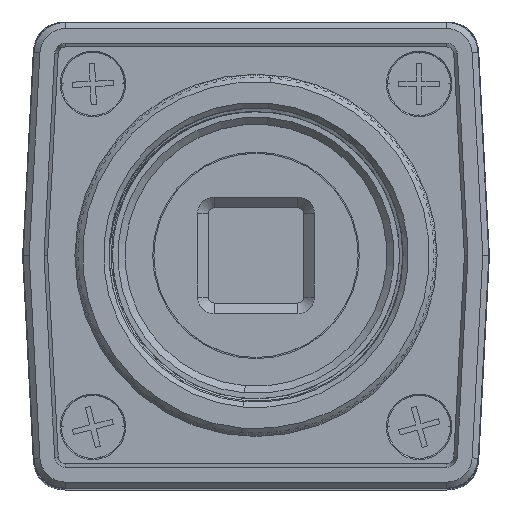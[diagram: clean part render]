
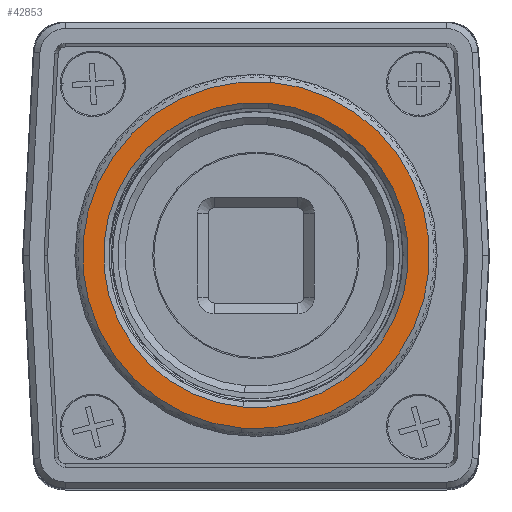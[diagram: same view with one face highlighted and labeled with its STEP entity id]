
A CAD part, top view. The second image highlights one B-rep face of the part: STEP entity #42853.
In plain terms, the highlighted planar face has unit normal (0, 0, 1).
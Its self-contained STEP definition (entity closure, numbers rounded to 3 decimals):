
#629 = DIRECTION ( 'NONE',  ( -0.082, -0.997, 0. ) ) ;
#630 = DIRECTION ( 'NONE',  ( 0., 0., -1. ) ) ;
#631 = CARTESIAN_POINT ( 'NONE',  ( 0., 0., 46.238 ) ) ;
#632 = AXIS2_PLACEMENT_3D ( 'NONE', #631, #630, #629 ) ;
#633 = CIRCLE ( 'NONE', #632, 14.575 ) ;
#634 = CARTESIAN_POINT ( 'NONE',  ( 1.202, 14.525, 46.238 ) ) ;
#635 = CARTESIAN_POINT ( 'NONE',  ( -1.202, -14.525, 46.238 ) ) ;
#9538 = DIRECTION ( 'NONE',  ( 0., 0., -1. ) ) ;
#9539 = CARTESIAN_POINT ( 'NONE',  ( 0., 0., 46.238 ) ) ;
#9540 = AXIS2_PLACEMENT_3D ( 'NONE', #9539, #9538, #9588 ) ;
#9541 = CIRCLE ( 'NONE', #9540, 14.575 ) ;
#9547 = DIRECTION ( 'NONE',  ( 0.082, 0.997, 0. ) ) ;
#9548 = DIRECTION ( 'NONE',  ( 0., 0., 1. ) ) ;
#9549 = CARTESIAN_POINT ( 'NONE',  ( -14.525, 1.202, 46.238 ) ) ;
#9550 = AXIS2_PLACEMENT_3D ( 'NONE', #9549, #9548, #9547 ) ;
#9588 = DIRECTION ( 'NONE',  ( -0.082, -0.997, 0. ) ) ;
#9592 = FACE_OUTER_BOUND ( 'NONE', #42856, .T. ) ;
#9597 = PLANE ( 'NONE',  #9550 ) ;
#9598 = FACE_BOUND ( 'NONE', #42865, .T. ) ;
#11368 = DIRECTION ( 'NONE',  ( 0.082, 0.997, 0. ) ) ;
#11369 = DIRECTION ( 'NONE',  ( 0., 0., 1. ) ) ;
#11370 = CARTESIAN_POINT ( 'NONE',  ( 0., 0., 46.238 ) ) ;
#11371 = AXIS2_PLACEMENT_3D ( 'NONE', #11370, #11369, #11368 ) ;
#11372 = CIRCLE ( 'NONE', #11371, 12.806 ) ;
#37312 = VERTEX_POINT ( 'NONE', #635 ) ;
#37316 = VERTEX_POINT ( 'NONE', #634 ) ;
#37318 = EDGE_CURVE ( 'NONE', #37312, #37316, #633, .T. ) ;
#37518 = VERTEX_POINT ( 'NONE', #64949 ) ;
#37519 = VERTEX_POINT ( 'NONE', #64948 ) ;
#37524 = EDGE_CURVE ( 'NONE', #37518, #37519, #65042, .T. ) ;
#42853 = ADVANCED_FACE ( 'NONE', ( #9592, #9598 ), #9597, .T. ) ;
#42856 = EDGE_LOOP ( 'NONE', ( #42858, #42860 ) ) ;
#42858 = ORIENTED_EDGE ( 'NONE', *, *, #37318, .F. ) ;
#42860 = ORIENTED_EDGE ( 'NONE', *, *, #42862, .F. ) ;
#42862 = EDGE_CURVE ( 'NONE', #37316, #37312, #9541, .T. ) ;
#42865 = EDGE_LOOP ( 'NONE', ( #43590, #43611 ) ) ;
#43590 = ORIENTED_EDGE ( 'NONE', *, *, #43609, .F. ) ;
#43609 = EDGE_CURVE ( 'NONE', #37519, #37518, #11372, .T. ) ;
#43611 = ORIENTED_EDGE ( 'NONE', *, *, #37524, .F. ) ;
#64896 = DIRECTION ( 'NONE',  ( 0.082, 0.997, 0. ) ) ;
#64897 = DIRECTION ( 'NONE',  ( 0., 0., 1. ) ) ;
#64898 = AXIS2_PLACEMENT_3D ( 'NONE', #64953, #64897, #64896 ) ;
#64948 = CARTESIAN_POINT ( 'NONE',  ( 1.056, 12.763, 46.238 ) ) ;
#64949 = CARTESIAN_POINT ( 'NONE',  ( -1.056, -12.763, 46.238 ) ) ;
#64953 = CARTESIAN_POINT ( 'NONE',  ( 0., 0., 46.238 ) ) ;
#65042 = CIRCLE ( 'NONE', #64898, 12.806 ) ;
